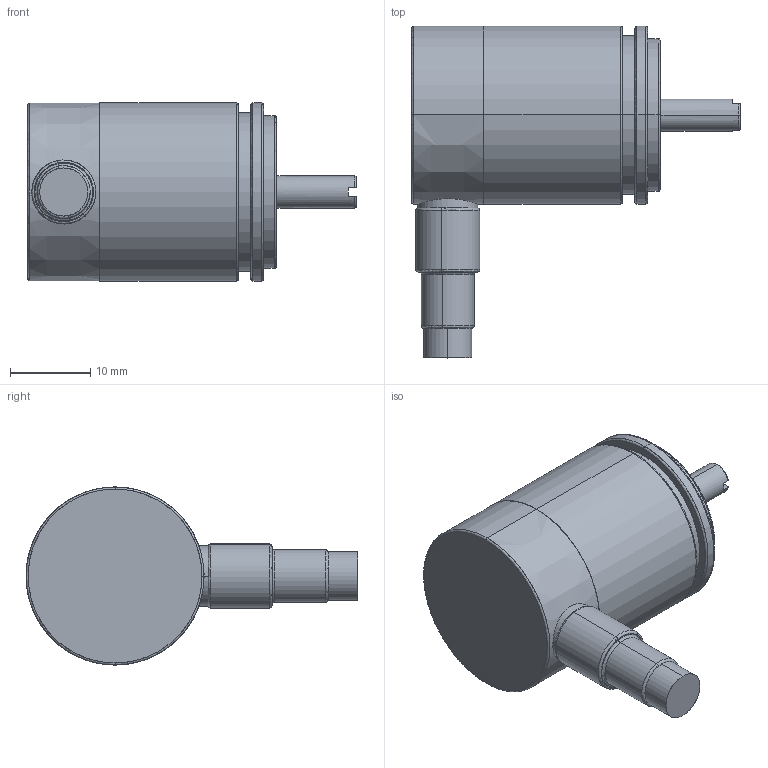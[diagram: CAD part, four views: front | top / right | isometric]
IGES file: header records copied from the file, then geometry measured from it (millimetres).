
Start section: SolidWorks IGES file using analytic representation for surfaces
Global section: file name: O:\08-Produkte_DatBlät&Beiblät&PrLi&Appl&Wettb\8-1 Megatron\8-1-11 Drehgeber\8-1-11-1 Datenblätter\MAB22\3-D-Daten\MAB22_radial.IGS; native system: SolidWorks 2007; preprocessor: SolidWorks 2007; author: AlessandroC; date: 110926.100023; units: millimetre
Bounding box: 41 x 41.42 x 22.23 mm (x, y, z)
Surface area: 4743.6 mm2 (no closed solid volume)
Topology: 0 solids, 0 shells, 88 faces, 1261 edges, 1261 vertices
Faces by surface type: bspline 46, revolution 42
